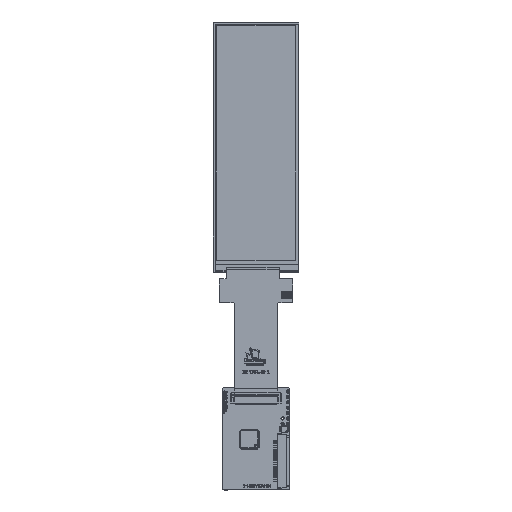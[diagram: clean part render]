
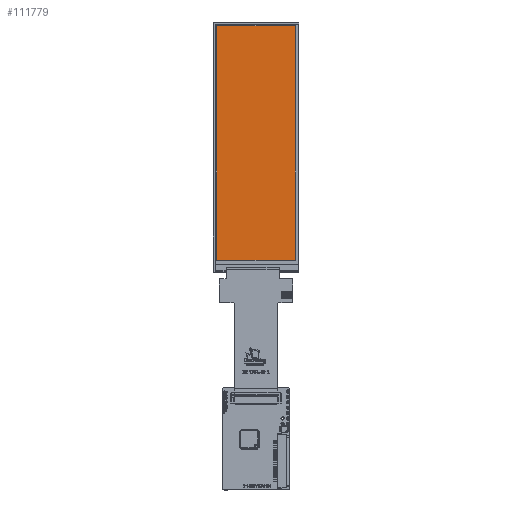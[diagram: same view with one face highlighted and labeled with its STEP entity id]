
A CAD part, top view. The second image highlights one B-rep face of the part: STEP entity #111779.
In plain terms, the highlighted planar face has unit normal (0, 0, 1).
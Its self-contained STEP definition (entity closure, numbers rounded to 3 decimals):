
#20273 = CARTESIAN_POINT ( 'NONE',  ( 0., 0., 2.03 ) ) ;
#20881 = EDGE_CURVE ( 'NONE', #96863, #229234, #256612, .T. ) ;
#21684 = FACE_OUTER_BOUND ( 'NONE', #253894, .T. ) ;
#29488 = CARTESIAN_POINT ( 'NONE',  ( -18.385, 0., 2.03 ) ) ;
#52798 = ORIENTED_EDGE ( 'NONE', *, *, #103584, .F. ) ;
#64347 = DIRECTION ( 'NONE',  ( 0., 0., 1. ) ) ;
#71376 = EDGE_CURVE ( 'NONE', #74599, #153878, #266414, .T. ) ;
#74599 = VERTEX_POINT ( 'NONE', #255758 ) ;
#75896 = ORIENTED_EDGE ( 'NONE', *, *, #187919, .F. ) ;
#76735 = LINE ( 'NONE', #249674, #208547 ) ;
#87822 = CARTESIAN_POINT ( 'NONE',  ( 18.385, 0., 2.03 ) ) ;
#88346 = DIRECTION ( 'NONE',  ( 1., 0., 0. ) ) ;
#96863 = VERTEX_POINT ( 'NONE', #146931 ) ;
#103584 = EDGE_CURVE ( 'NONE', #153878, #96863, #76735, .T. ) ;
#111779 = ADVANCED_FACE ( 'NONE', ( #21684 ), #214607, .T. ) ;
#124335 = AXIS2_PLACEMENT_3D ( 'NONE', #20273, #64347, #88346 ) ;
#140209 = DIRECTION ( 'NONE',  ( 0., 1., 0. ) ) ;
#141990 = DIRECTION ( 'NONE',  ( 1., 0., 0. ) ) ;
#146931 = CARTESIAN_POINT ( 'NONE',  ( 18.385, 57.15, 2.03 ) ) ;
#153086 = DIRECTION ( 'NONE',  ( 0., -1., 0. ) ) ;
#153878 = VERTEX_POINT ( 'NONE', #176861 ) ;
#176861 = CARTESIAN_POINT ( 'NONE',  ( -18.385, 57.15, 2.03 ) ) ;
#187919 = EDGE_CURVE ( 'NONE', #229234, #74599, #195037, .T. ) ;
#193645 = DIRECTION ( 'NONE',  ( -1., 0., 0. ) ) ;
#195037 = LINE ( 'NONE', #236142, #268000 ) ;
#195483 = VECTOR ( 'NONE', #140209, 1000. ) ;
#196543 = VECTOR ( 'NONE', #153086, 1000. ) ;
#208547 = VECTOR ( 'NONE', #141990, 1000. ) ;
#214607 = PLANE ( 'NONE',  #124335 ) ;
#229234 = VERTEX_POINT ( 'NONE', #278873 ) ;
#236142 = CARTESIAN_POINT ( 'NONE',  ( 0., -53.15, 2.03 ) ) ;
#249674 = CARTESIAN_POINT ( 'NONE',  ( 0., 57.15, 2.03 ) ) ;
#253894 = EDGE_LOOP ( 'NONE', ( #269153, #75896, #259351, #52798 ) ) ;
#255758 = CARTESIAN_POINT ( 'NONE',  ( -18.385, -53.15, 2.03 ) ) ;
#256612 = LINE ( 'NONE', #87822, #196543 ) ;
#259351 = ORIENTED_EDGE ( 'NONE', *, *, #20881, .F. ) ;
#266414 = LINE ( 'NONE', #29488, #195483 ) ;
#268000 = VECTOR ( 'NONE', #193645, 1000. ) ;
#269153 = ORIENTED_EDGE ( 'NONE', *, *, #71376, .F. ) ;
#278873 = CARTESIAN_POINT ( 'NONE',  ( 18.385, -53.15, 2.03 ) ) ;
